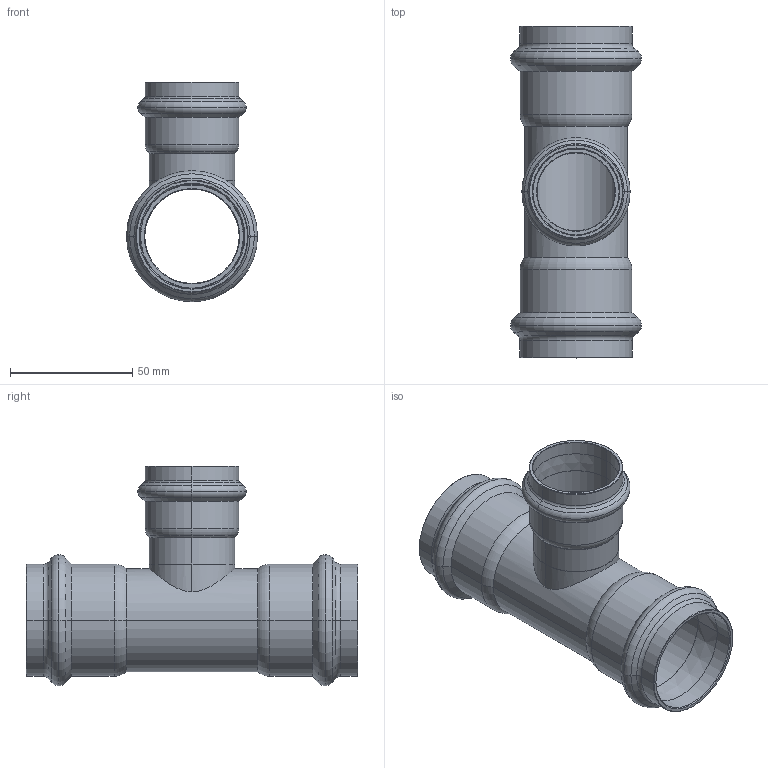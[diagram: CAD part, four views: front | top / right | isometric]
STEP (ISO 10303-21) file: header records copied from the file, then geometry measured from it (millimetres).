
FILE_DESCRIPTION(('CoCreate Modeling STEP Export'),'2;1');
FILE_NAME('8130RVW423542.stp','2013-01-31T14:44:45',(''),(''),'CoCreate Modeling STEP processor for AP214 (Solid Model)','CoCreate Modeling 17.00A 17-Jun-2010 (C) Parametric Technology GmbH','');
FILE_SCHEMA(('AUTOMOTIVE_DESIGN { 1 0 10303 214 1 1 1 1 }'));
Length unit declared in the file: millimetre
Products named in the file (2): 8130RVW423542
Assembly tree (1 placements, depth 2):
  8130RVW423542
    8130RVW423542
Bounding box: 53.61 x 135.73 x 89.8 mm (x, y, z)
Volume: 47458.7 mm3; surface area: 48405.9 mm2
Topology: 1 solids, 1 shells, 134 faces, 279 edges, 155 vertices
Faces by surface type: cylinder 42, torus 42, cone 38, plane 10, bspline 2
Entity records: 5952 total; most frequent: CARTESIAN_POINT 3517, ORIENTED_EDGE 558, DIRECTION 444, EDGE_CURVE 279, AXIS2_PLACEMENT_3D 182, VERTEX_POINT 155, EDGE_LOOP 146, FACE_OUTER_BOUND 134
